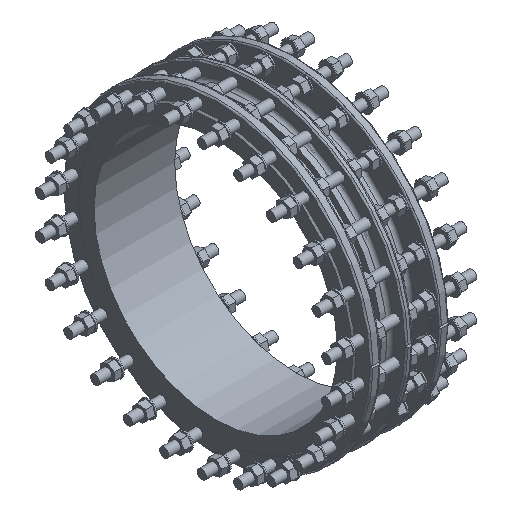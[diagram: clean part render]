
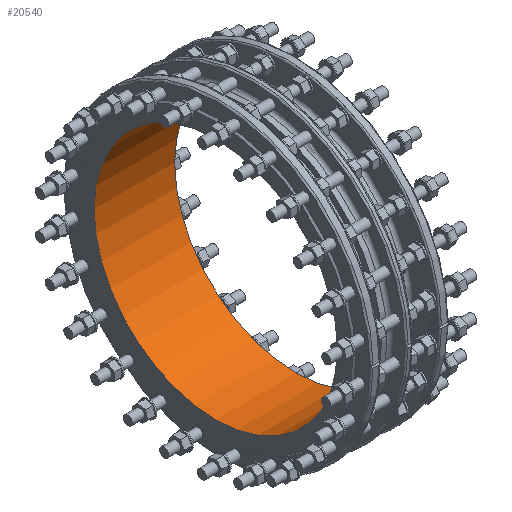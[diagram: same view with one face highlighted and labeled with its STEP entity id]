
A CAD part, isometric view. The second image highlights one B-rep face of the part: STEP entity #20540.
In plain terms, the highlighted cylindrical face has radius 400 mm (diameter 800 mm), a full revolution.
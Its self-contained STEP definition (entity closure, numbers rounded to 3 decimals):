
#923 = DIRECTION ( 'NONE',  ( 1., 0., 0. ) ) ;
#2448 = VERTEX_POINT ( 'NONE', #14762 ) ;
#2780 = ORIENTED_EDGE ( 'NONE', *, *, #39715, .F. ) ;
#3909 = EDGE_LOOP ( 'NONE', ( #28582 ) ) ;
#4901 = CARTESIAN_POINT ( 'NONE',  ( 244., 0., 400. ) ) ;
#6415 = CIRCLE ( 'NONE', #20414, 400. ) ;
#7883 = AXIS2_PLACEMENT_3D ( 'NONE', #29534, #923, #13654 ) ;
#7920 = DIRECTION ( 'NONE',  ( -1., 0., 0. ) ) ;
#10171 = FACE_OUTER_BOUND ( 'NONE', #3909, .T. ) ;
#11155 = VERTEX_POINT ( 'NONE', #4901 ) ;
#12328 = FACE_OUTER_BOUND ( 'NONE', #41192, .T. ) ;
#13654 = DIRECTION ( 'NONE',  ( 0., 0., -1. ) ) ;
#14762 = CARTESIAN_POINT ( 'NONE',  ( -21., 0., -400. ) ) ;
#14880 = EDGE_CURVE ( 'NONE', #11155, #11155, #6415, .T. ) ;
#17884 = CIRCLE ( 'NONE', #7883, 400. ) ;
#18597 = DIRECTION ( 'NONE',  ( -1., 0., 0. ) ) ;
#20414 = AXIS2_PLACEMENT_3D ( 'NONE', #39261, #7920, #23575 ) ;
#20540 = ADVANCED_FACE ( 'NONE', ( #10171, #12328 ), #25065, .F. ) ;
#23575 = DIRECTION ( 'NONE',  ( 0., 0., 1. ) ) ;
#24716 = AXIS2_PLACEMENT_3D ( 'NONE', #31545, #18597, #38029 ) ;
#25065 = CYLINDRICAL_SURFACE ( 'NONE', #24716, 400. ) ;
#28582 = ORIENTED_EDGE ( 'NONE', *, *, #14880, .F. ) ;
#29534 = CARTESIAN_POINT ( 'NONE',  ( -21., 0., 0. ) ) ;
#31545 = CARTESIAN_POINT ( 'NONE',  ( 0., 0., 0. ) ) ;
#38029 = DIRECTION ( 'NONE',  ( 0., 0., 1. ) ) ;
#39261 = CARTESIAN_POINT ( 'NONE',  ( 244., 0., 0. ) ) ;
#39715 = EDGE_CURVE ( 'NONE', #2448, #2448, #17884, .T. ) ;
#41192 = EDGE_LOOP ( 'NONE', ( #2780 ) ) ;
